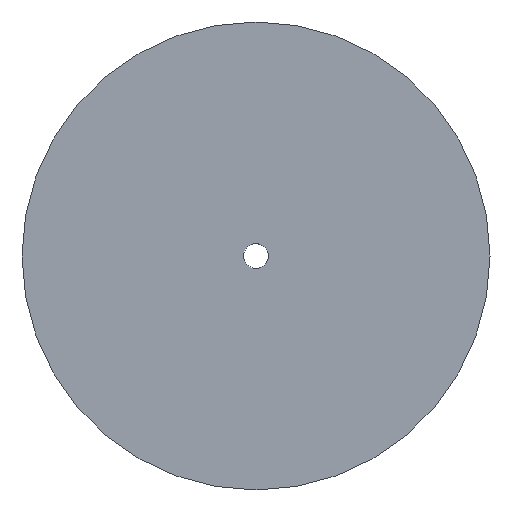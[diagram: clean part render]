
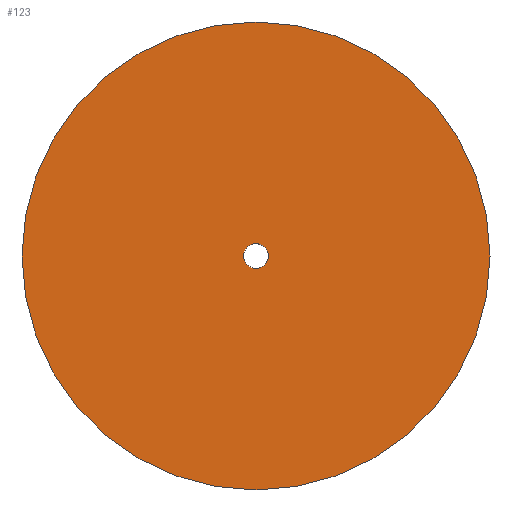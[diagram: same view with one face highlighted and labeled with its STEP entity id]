
A CAD part, top view. The second image highlights one B-rep face of the part: STEP entity #123.
In plain terms, the highlighted planar face has unit normal (0, 0, 1).
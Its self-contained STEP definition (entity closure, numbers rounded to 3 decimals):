
#62=CARTESIAN_POINT('Vertex',(-2.852,1.558,0.)) ;
#76=CARTESIAN_POINT('Vertex',(2.852,-1.558,0.)) ;
#79=CARTESIAN_POINT('Axis2P3D Location',(0.,0.,0.)) ;
#91=CARTESIAN_POINT('Axis2P3D Location',(0.,0.,0.)) ;
#96=CARTESIAN_POINT('Axis2P3D Location',(0.,0.,0.)) ;
#100=CARTESIAN_POINT('Vertex',(61.,0.,0.)) ;
#102=CARTESIAN_POINT('Vertex',(-61.,0.,0.)) ;
#105=CARTESIAN_POINT('Axis2P3D Location',(0.,0.,0.)) ;
#114=CARTESIAN_POINT('Axis2P3D Location',(0.,0.,0.)) ;
#80=DIRECTION('Axis2P3D Direction',(0.,-0.,-1.)) ;
#92=DIRECTION('Axis2P3D Direction',(0.,0.,1.)) ;
#93=DIRECTION('Axis2P3D XDirection',(1.,0.,0.)) ;
#97=DIRECTION('Axis2P3D Direction',(0.,0.,1.)) ;
#106=DIRECTION('Axis2P3D Direction',(0.,0.,1.)) ;
#115=DIRECTION('Axis2P3D Direction',(0.,0.,1.)) ;
#81=AXIS2_PLACEMENT_3D('Circle Axis2P3D',#79,#80,$) ;
#94=AXIS2_PLACEMENT_3D('Plane Axis2P3D',#91,#92,#93) ;
#98=AXIS2_PLACEMENT_3D('Circle Axis2P3D',#96,#97,$) ;
#107=AXIS2_PLACEMENT_3D('Circle Axis2P3D',#105,#106,$) ;
#116=AXIS2_PLACEMENT_3D('Circle Axis2P3D',#114,#115,$) ;
#111=ORIENTED_EDGE('',*,*,#104,.F.) ;
#112=ORIENTED_EDGE('',*,*,#109,.F.) ;
#120=ORIENTED_EDGE('',*,*,#118,.F.) ;
#121=ORIENTED_EDGE('',*,*,#83,.F.) ;
#122=FACE_BOUND('',#119,.T.) ;
#123=ADVANCED_FACE('PartBody',(#113,#122),#95,.T.) ;
#82=CIRCLE('generated circle',#81,3.25) ;
#99=CIRCLE('generated circle',#98,61.) ;
#108=CIRCLE('generated circle',#107,61.) ;
#117=CIRCLE('generated circle',#116,3.25) ;
#83=EDGE_CURVE('',#77,#63,#82,.F.) ;
#104=EDGE_CURVE('',#101,#103,#99,.F.) ;
#109=EDGE_CURVE('',#103,#101,#108,.F.) ;
#118=EDGE_CURVE('',#63,#77,#117,.T.) ;
#110=EDGE_LOOP('',(#111,#112)) ;
#119=EDGE_LOOP('',(#120,#121)) ;
#113=FACE_OUTER_BOUND('',#110,.T.) ;
#95=PLANE('',#94) ;
#63=VERTEX_POINT('',#62) ;
#77=VERTEX_POINT('',#76) ;
#101=VERTEX_POINT('',#100) ;
#103=VERTEX_POINT('',#102) ;
